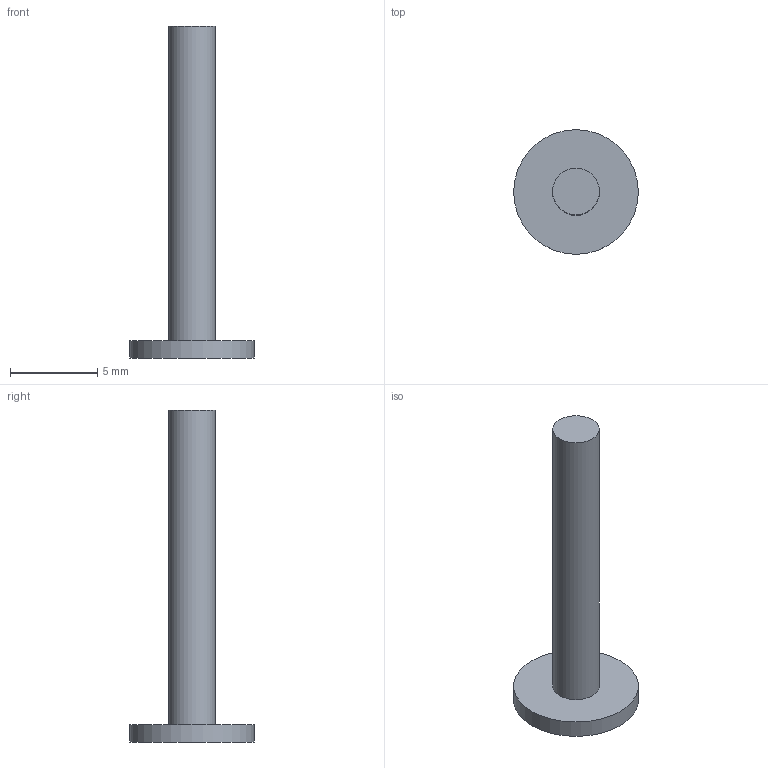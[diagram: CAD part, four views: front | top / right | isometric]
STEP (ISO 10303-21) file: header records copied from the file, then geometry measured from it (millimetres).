
FILE_DESCRIPTION((''),'2;1');
FILE_NAME('C:\Users\JamesRPatrick\Documents\Autodesk\PM422\STEP2.0\PM422FiringPin2.stp','2015-08-22T19:03:37',('JamesRPatrick'),(''),'Autodesk Inventor 2012','Autodesk Inventor 2012','');
FILE_SCHEMA(('AUTOMOTIVE_DESIGN { 1 0 10303 214 1 1 1 1 }'));
Length unit declared in the file: millimetre
Products named in the file (1): PM422FiringPin2
Bounding box: 7.14 x 7.14 x 19.02 mm (x, y, z)
Volume: 141.6 mm3; surface area: 254.1 mm2
Topology: 1 solids, 1 shells, 5 faces, 6 edges, 4 vertices
Faces by surface type: plane 3, cylinder 2
Full cylindrical faces by diameter (mm): 2.68 x1, 7.137 x1
Entity records: 120 total; most frequent: DIRECTION 20, CARTESIAN_POINT 14, AXIS2_PLACEMENT_3D 10, ORIENTED_EDGE 8, EDGE_LOOP 8, FACE_OUTER_BOUND 5, ADVANCED_FACE 5, VERTEX_POINT 4
